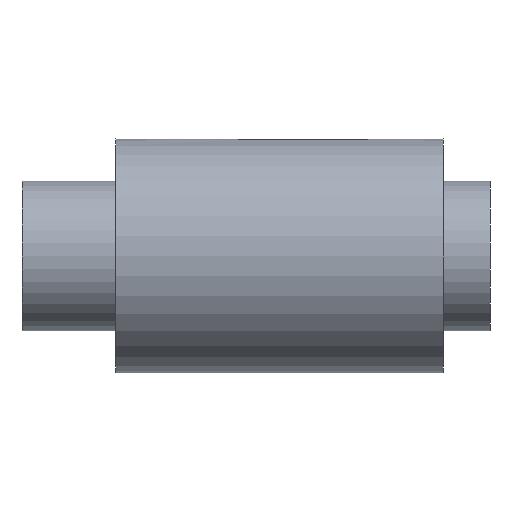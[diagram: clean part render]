
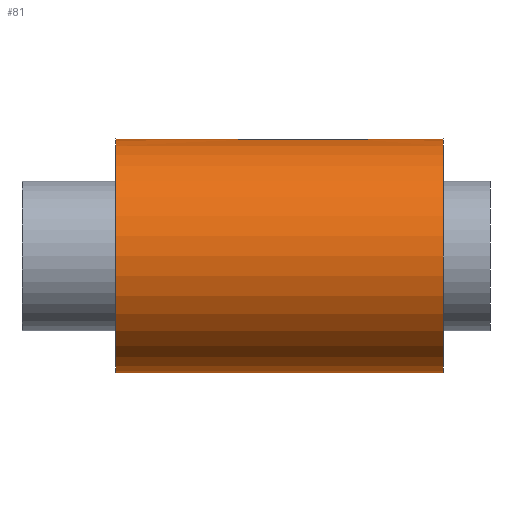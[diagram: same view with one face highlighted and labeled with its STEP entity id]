
A CAD part, left-side view. The second image highlights one B-rep face of the part: STEP entity #81.
In plain terms, the highlighted cylindrical face has radius 25 mm (diameter 50 mm), a full revolution.
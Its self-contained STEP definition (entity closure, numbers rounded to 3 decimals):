
#23=B_SPLINE_CURVE_WITH_KNOTS('',3,(#352,#353,#354,#355,#356,#357,#358,#359,
#360,#361,#362,#363,#364,#365,#366,#367,#368,#369,#370,#371,#372,#373,#374,
#375,#376,#377,#378,#379,#380,#381,#382),.UNSPECIFIED.,.F.,.F.,(4,3,3,3,
3,3,3,3,3,3,4),(0.,0.107,0.214,0.321,
0.429,0.536,0.643,0.75,
0.858,0.965,1.),.UNSPECIFIED.);
#24=B_SPLINE_CURVE_WITH_KNOTS('',3,(#386,#387,#388,#389,#390,#391,#392,#393,
#394,#395,#396,#397,#398,#399,#400,#401,#402,#403,#404,#405,#406,#407,#408,
#409,#410,#411,#412,#413,#414,#415,#416),.UNSPECIFIED.,.F.,.F.,(4,3,3,3,
3,3,3,3,3,3,4),(0.,0.107,0.214,0.321,
0.429,0.536,0.643,0.75,
0.858,0.965,1.),.UNSPECIFIED.);
#25=LINE('',#349,#33);
#26=LINE('',#384,#34);
#33=VECTOR('',#287,1.);
#34=VECTOR('',#288,1.);
#81=ADVANCED_FACE('',(#103,#104,#105),#95,.T.);
#95=CYLINDRICAL_SURFACE('',#250,25.);
#103=FACE_BOUND('',#124,.T.);
#104=FACE_BOUND('',#125,.T.);
#105=FACE_BOUND('',#126,.T.);
#124=EDGE_LOOP('',(#150));
#125=EDGE_LOOP('',(#151));
#126=EDGE_LOOP('',(#152,#153,#154,#155));
#150=ORIENTED_EDGE('',*,*,#210,.T.);
#151=ORIENTED_EDGE('',*,*,#211,.F.);
#152=ORIENTED_EDGE('',*,*,#212,.T.);
#153=ORIENTED_EDGE('',*,*,#213,.T.);
#154=ORIENTED_EDGE('',*,*,#214,.T.);
#155=ORIENTED_EDGE('',*,*,#215,.T.);
#192=VERTEX_POINT('',#346);
#193=VERTEX_POINT('',#348);
#194=VERTEX_POINT('',#350);
#195=VERTEX_POINT('',#351);
#196=VERTEX_POINT('',#383);
#197=VERTEX_POINT('',#385);
#210=EDGE_CURVE('',#192,#192,#232,.T.);
#211=EDGE_CURVE('',#193,#193,#233,.T.);
#212=EDGE_CURVE('',#194,#195,#25,.T.);
#213=EDGE_CURVE('',#195,#196,#23,.T.);
#214=EDGE_CURVE('',#196,#197,#26,.T.);
#215=EDGE_CURVE('',#197,#194,#24,.T.);
#232=CIRCLE('',#248,25.);
#233=CIRCLE('',#249,25.);
#248=AXIS2_PLACEMENT_3D('',#345,#283,#284);
#249=AXIS2_PLACEMENT_3D('',#347,#285,#286);
#250=AXIS2_PLACEMENT_3D('',#417,#289,#290);
#283=DIRECTION('',(0.,-1.,0.));
#284=DIRECTION('',(1.,0.,0.));
#285=DIRECTION('',(0.,-1.,0.));
#286=DIRECTION('',(1.,0.,0.));
#287=DIRECTION('',(0.,-1.,0.));
#288=DIRECTION('',(0.,1.,0.));
#289=DIRECTION('',(0.,-1.,0.));
#290=DIRECTION('',(0.,0.,-1.));
#345=CARTESIAN_POINT('',(0.,70.,0.));
#346=CARTESIAN_POINT('',(25.,70.,0.));
#347=CARTESIAN_POINT('',(0.,0.,0.));
#348=CARTESIAN_POINT('',(25.,0.,0.));
#349=CARTESIAN_POINT('',(2.5,70.,24.875));
#350=CARTESIAN_POINT('',(2.5,42.5,24.875));
#351=CARTESIAN_POINT('',(2.5,17.5,24.875));
#352=CARTESIAN_POINT('',(2.5,17.5,24.875));
#353=CARTESIAN_POINT('',(2.5,17.221,24.875));
#354=CARTESIAN_POINT('',(2.452,16.938,24.88));
#355=CARTESIAN_POINT('',(2.36,16.675,24.888));
#356=CARTESIAN_POINT('',(2.268,16.412,24.897));
#357=CARTESIAN_POINT('',(2.129,16.161,24.91));
#358=CARTESIAN_POINT('',(1.956,15.943,24.923));
#359=CARTESIAN_POINT('',(1.782,15.724,24.937));
#360=CARTESIAN_POINT('',(1.567,15.532,24.952));
#361=CARTESIAN_POINT('',(1.331,15.384,24.965));
#362=CARTESIAN_POINT('',(1.094,15.234,24.977));
#363=CARTESIAN_POINT('',(0.827,15.124,24.988));
#364=CARTESIAN_POINT('',(0.554,15.062,24.994));
#365=CARTESIAN_POINT('',(0.281,15.,25.));
#366=CARTESIAN_POINT('',(-0.006,14.984,25.002));
#367=CARTESIAN_POINT('',(-0.283,15.016,24.998));
#368=CARTESIAN_POINT('',(-0.56,15.048,24.995));
#369=CARTESIAN_POINT('',(-0.835,15.127,24.987));
#370=CARTESIAN_POINT('',(-1.086,15.248,24.976));
#371=CARTESIAN_POINT('',(-1.337,15.369,24.965));
#372=CARTESIAN_POINT('',(-1.571,15.535,24.951));
#373=CARTESIAN_POINT('',(-1.768,15.732,24.937));
#374=CARTESIAN_POINT('',(-1.966,15.93,24.923));
#375=CARTESIAN_POINT('',(-2.132,16.165,24.909));
#376=CARTESIAN_POINT('',(-2.253,16.417,24.898));
#377=CARTESIAN_POINT('',(-2.375,16.67,24.887));
#378=CARTESIAN_POINT('',(-2.454,16.947,24.879));
#379=CARTESIAN_POINT('',(-2.485,17.225,24.876));
#380=CARTESIAN_POINT('',(-2.495,17.316,24.875));
#381=CARTESIAN_POINT('',(-2.5,17.408,24.875));
#382=CARTESIAN_POINT('',(-2.5,17.5,24.875));
#383=CARTESIAN_POINT('',(-2.5,17.5,24.875));
#384=CARTESIAN_POINT('',(-2.5,70.,24.875));
#385=CARTESIAN_POINT('',(-2.5,42.5,24.875));
#386=CARTESIAN_POINT('',(-2.5,42.5,24.875));
#387=CARTESIAN_POINT('',(-2.5,42.779,24.875));
#388=CARTESIAN_POINT('',(-2.452,43.062,24.88));
#389=CARTESIAN_POINT('',(-2.36,43.325,24.888));
#390=CARTESIAN_POINT('',(-2.268,43.588,24.897));
#391=CARTESIAN_POINT('',(-2.129,43.839,24.91));
#392=CARTESIAN_POINT('',(-1.956,44.057,24.923));
#393=CARTESIAN_POINT('',(-1.782,44.276,24.937));
#394=CARTESIAN_POINT('',(-1.567,44.468,24.952));
#395=CARTESIAN_POINT('',(-1.331,44.616,24.965));
#396=CARTESIAN_POINT('',(-1.094,44.766,24.977));
#397=CARTESIAN_POINT('',(-0.827,44.876,24.988));
#398=CARTESIAN_POINT('',(-0.554,44.938,24.994));
#399=CARTESIAN_POINT('',(-0.281,45.,25.));
#400=CARTESIAN_POINT('',(0.006,45.016,25.002));
#401=CARTESIAN_POINT('',(0.283,44.984,24.998));
#402=CARTESIAN_POINT('',(0.56,44.952,24.995));
#403=CARTESIAN_POINT('',(0.835,44.873,24.987));
#404=CARTESIAN_POINT('',(1.086,44.752,24.976));
#405=CARTESIAN_POINT('',(1.337,44.631,24.965));
#406=CARTESIAN_POINT('',(1.571,44.465,24.951));
#407=CARTESIAN_POINT('',(1.768,44.268,24.937));
#408=CARTESIAN_POINT('',(1.966,44.07,24.923));
#409=CARTESIAN_POINT('',(2.132,43.835,24.909));
#410=CARTESIAN_POINT('',(2.253,43.583,24.898));
#411=CARTESIAN_POINT('',(2.375,43.33,24.887));
#412=CARTESIAN_POINT('',(2.454,43.053,24.879));
#413=CARTESIAN_POINT('',(2.485,42.775,24.876));
#414=CARTESIAN_POINT('',(2.495,42.684,24.875));
#415=CARTESIAN_POINT('',(2.5,42.592,24.875));
#416=CARTESIAN_POINT('',(2.5,42.5,24.875));
#417=CARTESIAN_POINT('',(0.,70.,0.));
